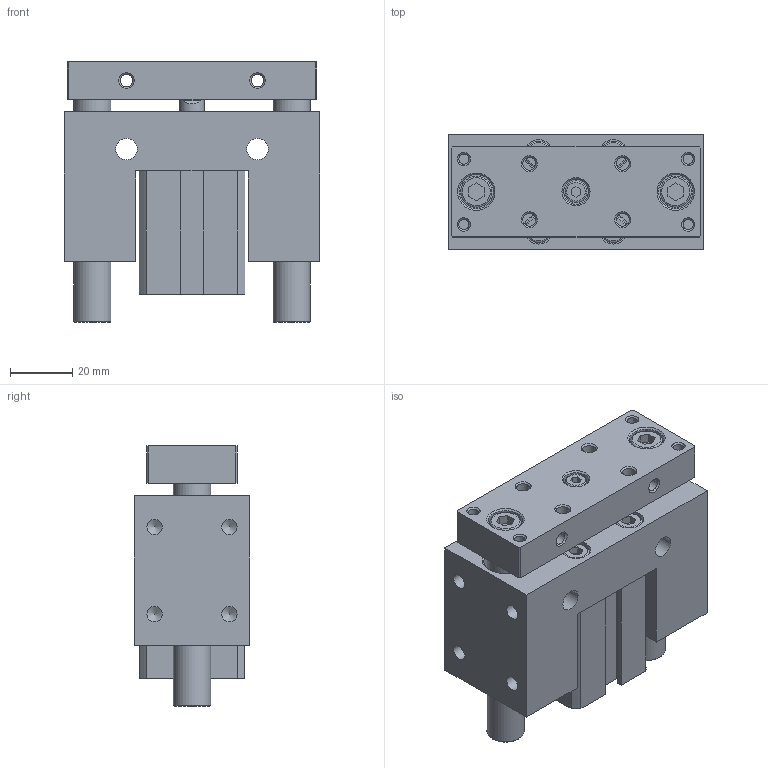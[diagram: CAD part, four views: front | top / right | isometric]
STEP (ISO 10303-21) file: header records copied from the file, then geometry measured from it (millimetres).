
FILE_DESCRIPTION((''),'2;1');
FILE_NAME('I:\3D電子目錄\氣缸\JCB\JCB\JCB20\JCB20x20..stp','2007-08-21T18:16:44',('Administrator'),(''),'Autodesk Inventor 11','Autodesk Inventor 11','');
FILE_SCHEMA(('AUTOMOTIVE_DESIGN { 1 0 10303 214 1 1 1 1 }'));
Length unit declared in the file: millimetre
Products named in the file (1): JCB20
Bounding box: 82 x 37 x 83.5 mm (x, y, z)
Volume: 164186.6 mm3; surface area: 54444.7 mm2
Topology: 5 solids, 5 shells, 293 faces, 643 edges, 415 vertices
Faces by surface type: plane 150, bspline 53, cylinder 45, cone 37, torus 8
Full cylindrical faces by diameter (mm): 1.5 x2, 4.3 x4, 4.917 x4, 7 x9, 8 x1, 8.5 x4, 9 x1, 10 x2, 12 x2, 13 x2, 14 x2, 22 x4, 23.2 x2
Entity records: 7875 total; most frequent: CARTESIAN_POINT 1985, DIRECTION 1184, ORIENTED_EDGE 992, EDGE_LOOP 504, EDGE_CURVE 496, AXIS2_PLACEMENT_3D 447, VERTEX_POINT 394, FACE_OUTER_BOUND 293
